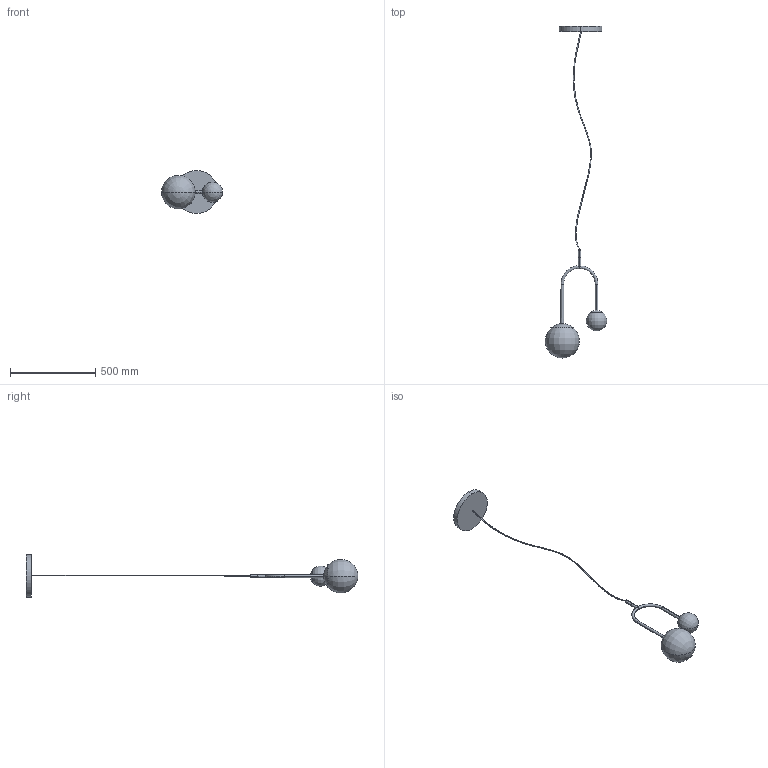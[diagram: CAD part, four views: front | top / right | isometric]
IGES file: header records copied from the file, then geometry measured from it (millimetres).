
Start section: SolidWorks IGES file using analytic representation for surfaces
Global section: file name: Y:\eforma\TECNICO\SOLIDWORKS\E-FORMA\09-LAMPADE\DECOR\02 parts\DEC01_Decor 1 sospensione.IGS; native system: SolidWorks 2022; preprocessor: SolidWorks 2022; author: eforma.tech; date: 240806.104152; units: millimetre
Bounding box: 360.09 x 1944.36 x 250 mm (x, y, z)
Volume: 6755601.4 mm3; surface area: 351424.8 mm2
Topology: 2 solids, 2 shells, 35 faces, 78 edges, 46 vertices
Faces by surface type: revolution 23, plane 6, bspline 6
